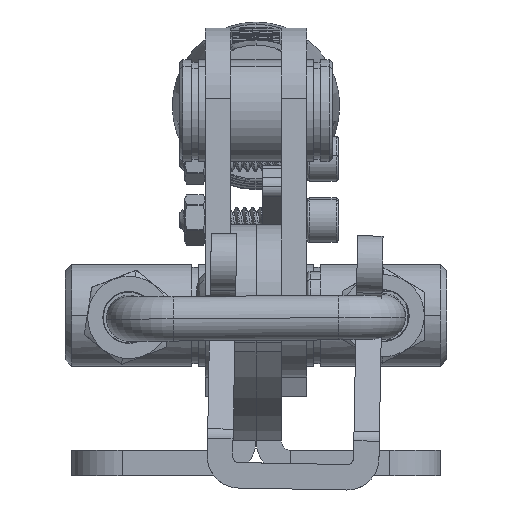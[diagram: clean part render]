
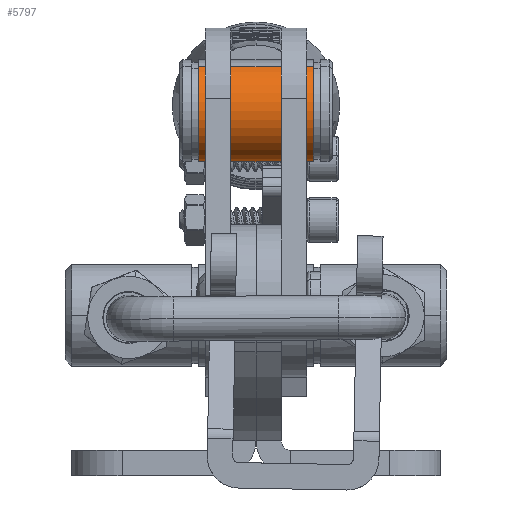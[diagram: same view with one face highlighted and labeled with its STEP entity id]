
A CAD part, left-side view. The second image highlights one B-rep face of the part: STEP entity #5797.
In plain terms, the highlighted cylindrical face has radius 8 mm (diameter 16 mm), a partial arc.
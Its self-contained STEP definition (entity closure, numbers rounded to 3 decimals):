
#1209 = DIRECTION ( 'NONE',  ( -1., 0., 0. ) ) ;
#2020 = CARTESIAN_POINT ( 'NONE',  ( 9., 8., 0. ) ) ;
#2040 = EDGE_CURVE ( 'NONE', #3938, #11295, #35157, .T. ) ;
#2637 = FACE_OUTER_BOUND ( 'NONE', #19607, .T. ) ;
#3938 = VERTEX_POINT ( 'NONE', #28960 ) ;
#4657 = VERTEX_POINT ( 'NONE', #2020 ) ;
#5797 = ADVANCED_FACE ( 'NONE', ( #2637 ), #21702, .T. ) ;
#6001 = CARTESIAN_POINT ( 'NONE',  ( -12., 0., 0. ) ) ;
#9051 = VECTOR ( 'NONE', #15116, 1000. ) ;
#9660 = DIRECTION ( 'NONE',  ( 1., 0., 0. ) ) ;
#10359 = DIRECTION ( 'NONE',  ( 0., -1., 0. ) ) ;
#11024 = CARTESIAN_POINT ( 'NONE',  ( 9., -8., 0. ) ) ;
#11295 = VERTEX_POINT ( 'NONE', #39576 ) ;
#12713 = EDGE_CURVE ( 'NONE', #4657, #3938, #14322, .T. ) ;
#14223 = DIRECTION ( 'NONE',  ( -1., 0., 0. ) ) ;
#14322 = LINE ( 'NONE', #43782, #36502 ) ;
#14332 = AXIS2_PLACEMENT_3D ( 'NONE', #25333, #9660, #28728 ) ;
#15116 = DIRECTION ( 'NONE',  ( -1., 0., 0. ) ) ;
#18038 = ORIENTED_EDGE ( 'NONE', *, *, #2040, .T. ) ;
#19607 = EDGE_LOOP ( 'NONE', ( #44540, #34653, #18038, #23716 ) ) ;
#21702 = CYLINDRICAL_SURFACE ( 'NONE', #40241, 8. ) ;
#22596 = CARTESIAN_POINT ( 'NONE',  ( -12., -8., 0. ) ) ;
#23716 = ORIENTED_EDGE ( 'NONE', *, *, #26972, .F. ) ;
#25333 = CARTESIAN_POINT ( 'NONE',  ( -9., 0., 0. ) ) ;
#25422 = DIRECTION ( 'NONE',  ( -1., 0., 0. ) ) ;
#26819 = CARTESIAN_POINT ( 'NONE',  ( 9., 0., 0. ) ) ;
#26972 = EDGE_CURVE ( 'NONE', #38806, #11295, #47518, .T. ) ;
#28728 = DIRECTION ( 'NONE',  ( 0., -1., 0. ) ) ;
#28960 = CARTESIAN_POINT ( 'NONE',  ( -9., 8., 0. ) ) ;
#29398 = AXIS2_PLACEMENT_3D ( 'NONE', #26819, #1209, #41554 ) ;
#34653 = ORIENTED_EDGE ( 'NONE', *, *, #12713, .T. ) ;
#35157 = CIRCLE ( 'NONE', #14332, 8. ) ;
#36502 = VECTOR ( 'NONE', #25422, 1000. ) ;
#37882 = CIRCLE ( 'NONE', #29398, 8. ) ;
#38806 = VERTEX_POINT ( 'NONE', #11024 ) ;
#39576 = CARTESIAN_POINT ( 'NONE',  ( -9., -8., 0. ) ) ;
#40241 = AXIS2_PLACEMENT_3D ( 'NONE', #6001, #14223, #10359 ) ;
#41554 = DIRECTION ( 'NONE',  ( 0., -1., 0. ) ) ;
#43782 = CARTESIAN_POINT ( 'NONE',  ( -12., 8., 0. ) ) ;
#44540 = ORIENTED_EDGE ( 'NONE', *, *, #46400, .T. ) ;
#46400 = EDGE_CURVE ( 'NONE', #38806, #4657, #37882, .T. ) ;
#47518 = LINE ( 'NONE', #22596, #9051 ) ;
